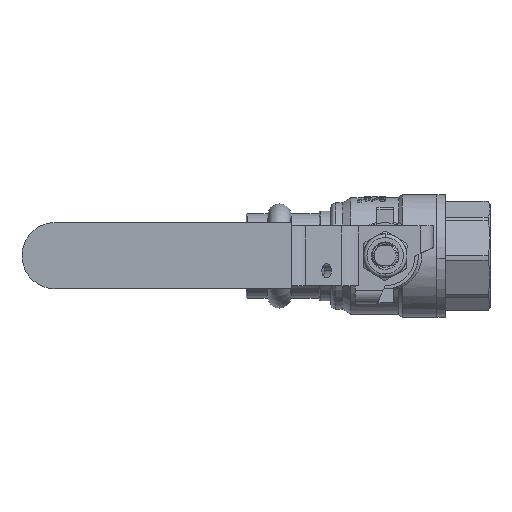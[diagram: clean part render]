
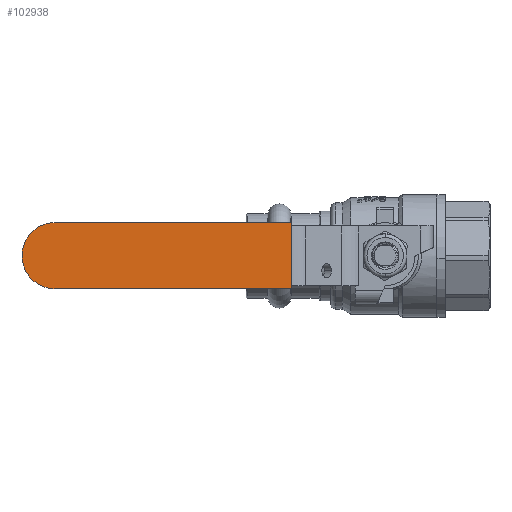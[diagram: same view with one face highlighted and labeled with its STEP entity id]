
A CAD part, top view. The second image highlights one B-rep face of the part: STEP entity #102938.
In plain terms, the highlighted planar face has unit normal (0, 0, 1).
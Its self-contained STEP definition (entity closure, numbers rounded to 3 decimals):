
#100375 = PLANE('',#100376);
#100376 = AXIS2_PLACEMENT_3D('',#100377,#100378,#100379);
#100377 = CARTESIAN_POINT('',(-28.314,-13.334,
    54.341));
#100378 = DIRECTION('',(-1.,0.,0.));
#100379 = DIRECTION('',(-0.,-1.,0.));
#102708 = VERTEX_POINT('',#102709);
#102709 = CARTESIAN_POINT('',(-28.314,-33.334,
    54.341));
#102725 = PLANE('',#102726);
#102726 = AXIS2_PLACEMENT_3D('',#102727,#102728,#102729);
#102727 = CARTESIAN_POINT('',(0.,-33.334,35.341));
#102728 = DIRECTION('',(0.,1.,0.));
#102729 = DIRECTION('',(-1.,0.,0.));
#102766 = VERTEX_POINT('',#102767);
#102767 = CARTESIAN_POINT('',(-28.314,-13.334,
    54.341));
#102781 = PLANE('',#102782);
#102782 = AXIS2_PLACEMENT_3D('',#102783,#102784,#102785);
#102783 = CARTESIAN_POINT('',(0.,-13.334,35.341));
#102784 = DIRECTION('',(0.,1.,0.));
#102785 = DIRECTION('',(-1.,0.,0.));
#102793 = EDGE_CURVE('',#102766,#102708,#102794,.T.);
#102794 = SURFACE_CURVE('',#102795,(#102799,#102806),.PCURVE_S1.);
#102795 = LINE('',#102796,#102797);
#102796 = CARTESIAN_POINT('',(-28.314,-13.334,
    54.341));
#102797 = VECTOR('',#102798,1.);
#102798 = DIRECTION('',(0.,-1.,0.));
#102799 = PCURVE('',#100375,#102800);
#102800 = DEFINITIONAL_REPRESENTATION('',(#102801),#102805);
#102801 = LINE('',#102802,#102803);
#102802 = CARTESIAN_POINT('',(-0.,0.));
#102803 = VECTOR('',#102804,1.);
#102804 = DIRECTION('',(1.,0.));
#102805 = ( GEOMETRIC_REPRESENTATION_CONTEXT(2) 
PARAMETRIC_REPRESENTATION_CONTEXT() REPRESENTATION_CONTEXT('2D SPACE',''
  ) );
#102806 = PCURVE('',#102807,#102812);
#102807 = PLANE('',#102808);
#102808 = AXIS2_PLACEMENT_3D('',#102809,#102810,#102811);
#102809 = CARTESIAN_POINT('',(-28.314,-13.334,
    54.341));
#102810 = DIRECTION('',(0.,0.,-1.));
#102811 = DIRECTION('',(0.,-1.,0.));
#102812 = DEFINITIONAL_REPRESENTATION('',(#102813),#102817);
#102813 = LINE('',#102814,#102815);
#102814 = CARTESIAN_POINT('',(0.,0.));
#102815 = VECTOR('',#102816,1.);
#102816 = DIRECTION('',(1.,0.));
#102817 = ( GEOMETRIC_REPRESENTATION_CONTEXT(2) 
PARAMETRIC_REPRESENTATION_CONTEXT() REPRESENTATION_CONTEXT('2D SPACE',''
  ) );
#102872 = CYLINDRICAL_SURFACE('',#102873,10.);
#102873 = AXIS2_PLACEMENT_3D('',#102874,#102875,#102876);
#102874 = CARTESIAN_POINT('',(-99.5,-23.334,54.341));
#102875 = DIRECTION('',(0.,0.,1.));
#102876 = DIRECTION('',(0.,1.,0.));
#102905 = CYLINDRICAL_SURFACE('',#102906,10.);
#102906 = AXIS2_PLACEMENT_3D('',#102907,#102908,#102909);
#102907 = CARTESIAN_POINT('',(-99.5,-23.334,35.341));
#102908 = DIRECTION('',(0.,0.,-1.));
#102909 = DIRECTION('',(0.,-1.,0.));
#102938 = ADVANCED_FACE('',(#102939),#102807,.F.);
#102939 = FACE_BOUND('',#102940,.T.);
#102940 = EDGE_LOOP('',(#102941,#102971,#102999,#103020,#103021));
#102941 = ORIENTED_EDGE('',*,*,#102942,.T.);
#102942 = EDGE_CURVE('',#102943,#102945,#102947,.T.);
#102943 = VERTEX_POINT('',#102944);
#102944 = CARTESIAN_POINT('',(-99.5,-13.334,54.341));
#102945 = VERTEX_POINT('',#102946);
#102946 = CARTESIAN_POINT('',(-109.5,-23.334,54.341));
#102947 = SURFACE_CURVE('',#102948,(#102953,#102964),.PCURVE_S1.);
#102948 = CIRCLE('',#102949,10.);
#102949 = AXIS2_PLACEMENT_3D('',#102950,#102951,#102952);
#102950 = CARTESIAN_POINT('',(-99.5,-23.334,54.341));
#102951 = DIRECTION('',(0.,0.,1.));
#102952 = DIRECTION('',(0.,-1.,0.));
#102953 = PCURVE('',#102807,#102954);
#102954 = DEFINITIONAL_REPRESENTATION('',(#102955),#102963);
#102955 = ( BOUNDED_CURVE() B_SPLINE_CURVE(2,(#102956,#102957,#102958,
    #102959,#102960,#102961,#102962),.UNSPECIFIED.,.T.,.F.) 
B_SPLINE_CURVE_WITH_KNOTS((1,2,2,2,2,1),(-2.094,0.,
    2.094,4.189,6.283,8.378),
.UNSPECIFIED.) CURVE() GEOMETRIC_REPRESENTATION_ITEM() 
RATIONAL_B_SPLINE_CURVE((1.,0.5,1.,0.5,1.,0.5,1.)) REPRESENTATION_ITEM(
  '') );
#102956 = CARTESIAN_POINT('',(20.,71.186));
#102957 = CARTESIAN_POINT('',(20.,53.866));
#102958 = CARTESIAN_POINT('',(5.,62.526));
#102959 = CARTESIAN_POINT('',(-10.,71.186));
#102960 = CARTESIAN_POINT('',(5.,79.847));
#102961 = CARTESIAN_POINT('',(20.,88.507));
#102962 = CARTESIAN_POINT('',(20.,71.186));
#102963 = ( GEOMETRIC_REPRESENTATION_CONTEXT(2) 
PARAMETRIC_REPRESENTATION_CONTEXT() REPRESENTATION_CONTEXT('2D SPACE',''
  ) );
#102964 = PCURVE('',#102905,#102965);
#102965 = DEFINITIONAL_REPRESENTATION('',(#102966),#102970);
#102966 = LINE('',#102967,#102968);
#102967 = CARTESIAN_POINT('',(6.283,-19.));
#102968 = VECTOR('',#102969,1.);
#102969 = DIRECTION('',(-1.,0.));
#102970 = ( GEOMETRIC_REPRESENTATION_CONTEXT(2) 
PARAMETRIC_REPRESENTATION_CONTEXT() REPRESENTATION_CONTEXT('2D SPACE',''
  ) );
#102971 = ORIENTED_EDGE('',*,*,#102972,.T.);
#102972 = EDGE_CURVE('',#102945,#102973,#102975,.T.);
#102973 = VERTEX_POINT('',#102974);
#102974 = CARTESIAN_POINT('',(-99.5,-33.334,54.341));
#102975 = SURFACE_CURVE('',#102976,(#102981,#102992),.PCURVE_S1.);
#102976 = CIRCLE('',#102977,10.);
#102977 = AXIS2_PLACEMENT_3D('',#102978,#102979,#102980);
#102978 = CARTESIAN_POINT('',(-99.5,-23.334,54.341));
#102979 = DIRECTION('',(0.,0.,1.));
#102980 = DIRECTION('',(0.,-1.,0.));
#102981 = PCURVE('',#102807,#102982);
#102982 = DEFINITIONAL_REPRESENTATION('',(#102983),#102991);
#102983 = ( BOUNDED_CURVE() B_SPLINE_CURVE(2,(#102984,#102985,#102986,
    #102987,#102988,#102989,#102990),.UNSPECIFIED.,.T.,.F.) 
B_SPLINE_CURVE_WITH_KNOTS((1,2,2,2,2,1),(-2.094,0.,
    2.094,4.189,6.283,8.378),
.UNSPECIFIED.) CURVE() GEOMETRIC_REPRESENTATION_ITEM() 
RATIONAL_B_SPLINE_CURVE((1.,0.5,1.,0.5,1.,0.5,1.)) REPRESENTATION_ITEM(
  '') );
#102984 = CARTESIAN_POINT('',(20.,71.186));
#102985 = CARTESIAN_POINT('',(20.,53.866));
#102986 = CARTESIAN_POINT('',(5.,62.526));
#102987 = CARTESIAN_POINT('',(-10.,71.186));
#102988 = CARTESIAN_POINT('',(5.,79.847));
#102989 = CARTESIAN_POINT('',(20.,88.507));
#102990 = CARTESIAN_POINT('',(20.,71.186));
#102991 = ( GEOMETRIC_REPRESENTATION_CONTEXT(2) 
PARAMETRIC_REPRESENTATION_CONTEXT() REPRESENTATION_CONTEXT('2D SPACE',''
  ) );
#102992 = PCURVE('',#102872,#102993);
#102993 = DEFINITIONAL_REPRESENTATION('',(#102994),#102998);
#102994 = LINE('',#102995,#102996);
#102995 = CARTESIAN_POINT('',(-3.142,0.));
#102996 = VECTOR('',#102997,1.);
#102997 = DIRECTION('',(1.,0.));
#102998 = ( GEOMETRIC_REPRESENTATION_CONTEXT(2) 
PARAMETRIC_REPRESENTATION_CONTEXT() REPRESENTATION_CONTEXT('2D SPACE',''
  ) );
#102999 = ORIENTED_EDGE('',*,*,#103000,.T.);
#103000 = EDGE_CURVE('',#102973,#102708,#103001,.T.);
#103001 = SURFACE_CURVE('',#103002,(#103006,#103013),.PCURVE_S1.);
#103002 = LINE('',#103003,#103004);
#103003 = CARTESIAN_POINT('',(-28.314,-33.334,
    54.341));
#103004 = VECTOR('',#103005,1.);
#103005 = DIRECTION('',(1.,0.,0.));
#103006 = PCURVE('',#102807,#103007);
#103007 = DEFINITIONAL_REPRESENTATION('',(#103008),#103012);
#103008 = LINE('',#103009,#103010);
#103009 = CARTESIAN_POINT('',(20.,0.));
#103010 = VECTOR('',#103011,1.);
#103011 = DIRECTION('',(0.,-1.));
#103012 = ( GEOMETRIC_REPRESENTATION_CONTEXT(2) 
PARAMETRIC_REPRESENTATION_CONTEXT() REPRESENTATION_CONTEXT('2D SPACE',''
  ) );
#103013 = PCURVE('',#102725,#103014);
#103014 = DEFINITIONAL_REPRESENTATION('',(#103015),#103019);
#103015 = LINE('',#103016,#103017);
#103016 = CARTESIAN_POINT('',(28.314,19.));
#103017 = VECTOR('',#103018,1.);
#103018 = DIRECTION('',(-1.,0.));
#103019 = ( GEOMETRIC_REPRESENTATION_CONTEXT(2) 
PARAMETRIC_REPRESENTATION_CONTEXT() REPRESENTATION_CONTEXT('2D SPACE',''
  ) );
#103020 = ORIENTED_EDGE('',*,*,#102793,.F.);
#103021 = ORIENTED_EDGE('',*,*,#103022,.F.);
#103022 = EDGE_CURVE('',#102943,#102766,#103023,.T.);
#103023 = SURFACE_CURVE('',#103024,(#103028,#103035),.PCURVE_S1.);
#103024 = LINE('',#103025,#103026);
#103025 = CARTESIAN_POINT('',(-28.314,-13.334,
    54.341));
#103026 = VECTOR('',#103027,1.);
#103027 = DIRECTION('',(1.,0.,0.));
#103028 = PCURVE('',#102807,#103029);
#103029 = DEFINITIONAL_REPRESENTATION('',(#103030),#103034);
#103030 = LINE('',#103031,#103032);
#103031 = CARTESIAN_POINT('',(0.,0.));
#103032 = VECTOR('',#103033,1.);
#103033 = DIRECTION('',(0.,-1.));
#103034 = ( GEOMETRIC_REPRESENTATION_CONTEXT(2) 
PARAMETRIC_REPRESENTATION_CONTEXT() REPRESENTATION_CONTEXT('2D SPACE',''
  ) );
#103035 = PCURVE('',#102781,#103036);
#103036 = DEFINITIONAL_REPRESENTATION('',(#103037),#103041);
#103037 = LINE('',#103038,#103039);
#103038 = CARTESIAN_POINT('',(28.314,19.));
#103039 = VECTOR('',#103040,1.);
#103040 = DIRECTION('',(-1.,0.));
#103041 = ( GEOMETRIC_REPRESENTATION_CONTEXT(2) 
PARAMETRIC_REPRESENTATION_CONTEXT() REPRESENTATION_CONTEXT('2D SPACE',''
  ) );
